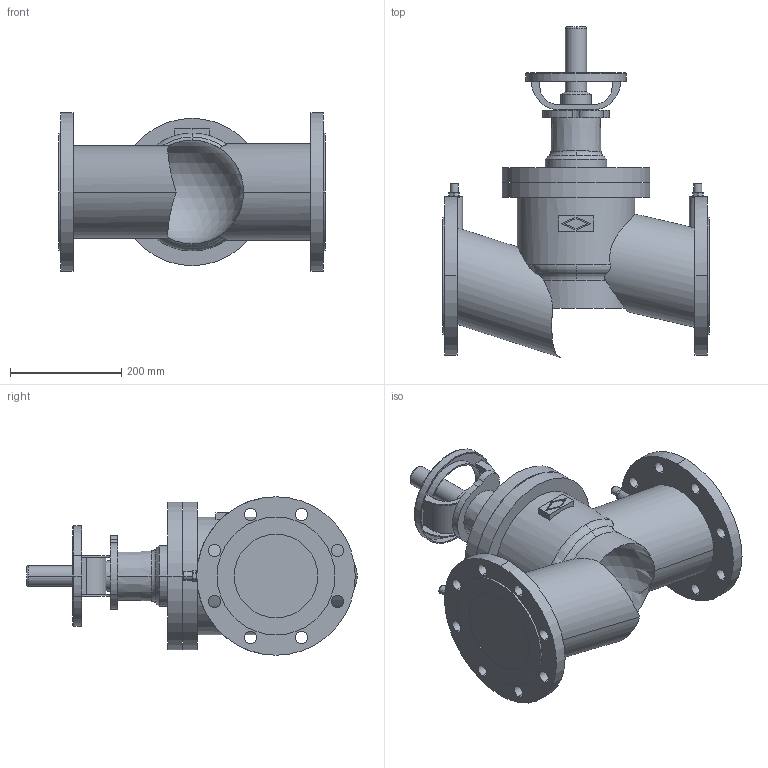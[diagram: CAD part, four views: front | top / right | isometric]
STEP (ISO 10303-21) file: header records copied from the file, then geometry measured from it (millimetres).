
FILE_DESCRIPTION( ( '' ), '1' );
FILE_NAME( 'F:/DE-SHS/TB/OR/04-Sonstiges/daten/files_3d/12020/c000000219.stp', '2015-04-28T06:36:51', ( '' ), ( '' ), ' ', ' ', ' ' );
FILE_SCHEMA( ( 'CONFIG_CONTROL_DESIGN' ) );
Length unit declared in the file: millimetre
Products named in the file (1): 1
Bounding box: 480 x 595.3 x 285 mm (x, y, z)
Volume: 17810583.7 mm3; surface area: 904435.2 mm2
Topology: 1 solids, 1 shells, 204 faces, 540 edges, 357 vertices
Faces by surface type: cylinder 111, plane 70, torus 16, cone 6, sphere 1
Entity records: 7271 total; most frequent: CARTESIAN_POINT 1900, DIRECTION 1175, ORIENTED_EDGE 1076, EDGE_CURVE 538, AXIS2_PLACEMENT_3D 466, VERTEX_POINT 357, EDGE_LOOP 261, CIRCLE 257
